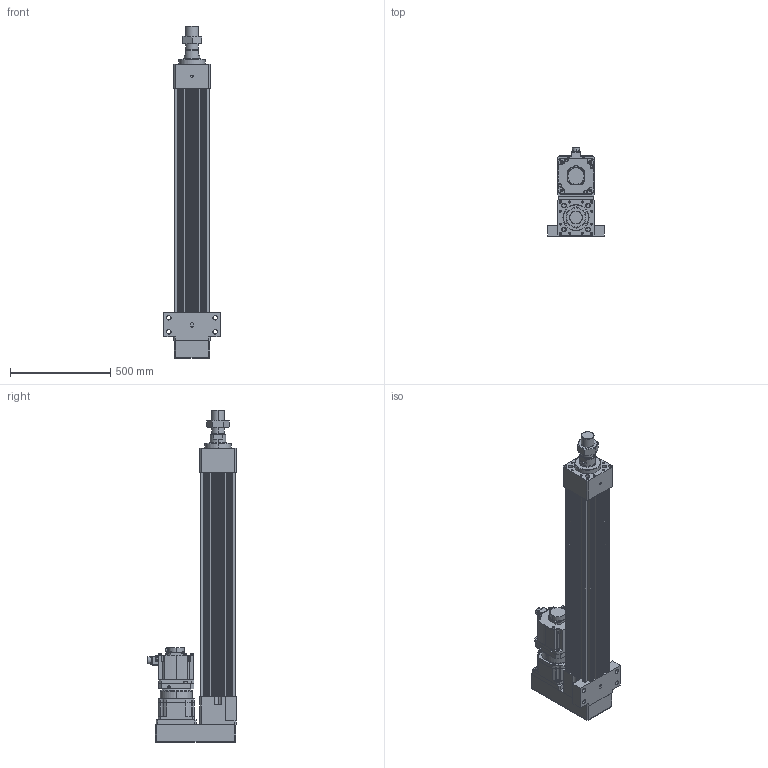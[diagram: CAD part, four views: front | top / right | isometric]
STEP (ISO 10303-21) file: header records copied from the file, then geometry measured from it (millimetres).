
FILE_DESCRIPTION (( 'STEP AP203' ), '1' );
FILE_NAME ('HES180HS-P800-W050G00-M-FFC.STEP', '2023-02-01T07:36:56', ( 'tms' ), ( '' ), 'SwSTEP 2.0', 'SolidWorks 2013', '' );
FILE_SCHEMA (( 'CONFIG_CONTROL_DESIGN' ));
Length unit declared in the file: millimetre
Products named in the file (9): AB180-003[HG-SR702B]; HES180HS-P800-W050G00-M-FFC; HG-SR502; HES180 ROD M ST800; HES180-P800-G180-FFC; P1301600001; AB1801; M64X2.0P; P0403600401
Assembly tree (8 placements, depth 3):
  HES180HS-P800-W050G00-M-FFC
    HES180-P800-G180-FFC
    HES180 ROD M ST800
    M64X2.0P
    AB180-003[HG-SR702B]
      AB1801
      P1301600001
      P0403600401
    HG-SR502
Bounding box: 280 x 438.85 x 1652 mm (x, y, z)
Volume: 34215468.9 mm3; surface area: 3107559.7 mm2
Topology: 4 solids, 19 shells, 1474 faces, 3821 edges, 2463 vertices
Faces by surface type: cylinder 686, plane 553, cone 168, bspline 63, torus 4
Entity records: 53682 total; most frequent: CARTESIAN_POINT 16162, DIRECTION 7905, ORIENTED_EDGE 7498, EDGE_CURVE 3773, AXIS2_PLACEMENT_3D 2986, VERTEX_POINT 2463, VECTOR 1933, LINE 1933
